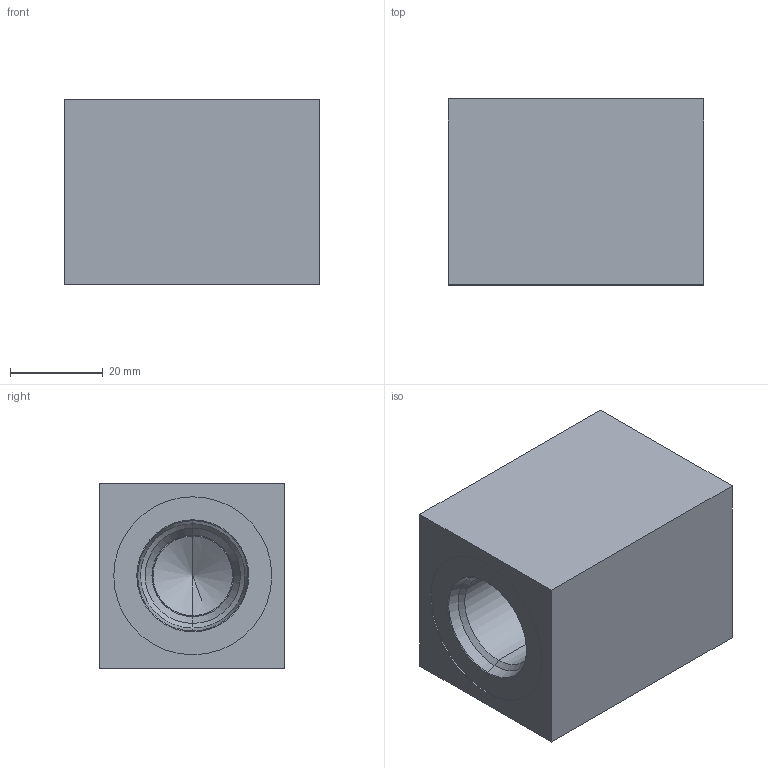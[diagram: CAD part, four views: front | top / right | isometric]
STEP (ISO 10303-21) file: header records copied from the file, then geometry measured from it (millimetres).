
FILE_DESCRIPTION (( 'STEP AP214' ), '1' );
FILE_NAME ('2.13.1003.STEP', '2021-12-16T13:33:31', ( '' ), ( '' ), 'SwSTEP 2.0', 'SolidWorks 2020', '' );
FILE_SCHEMA (( 'AUTOMOTIVE_DESIGN' ));
Length unit declared in the file: millimetre
Products named in the file (1): 2.13.1003
Bounding box: 55 x 40 x 40 mm (x, y, z)
Volume: 74036.2 mm3; surface area: 14607.3 mm2
Topology: 1 solids, 1 shells, 28 faces, 58 edges, 33 vertices
Faces by surface type: cone 8, cylinder 8, plane 8, torus 4
Entity records: 1066 total; most frequent: DIRECTION 142, CARTESIAN_POINT 118, ORIENTED_EDGE 112, AXIS2_PLACEMENT_3D 57, EDGE_CURVE 56, VERTEX_POINT 33, UNCERTAINTY_MEASURE_WITH_UNIT 31, EDGE_LOOP 31
